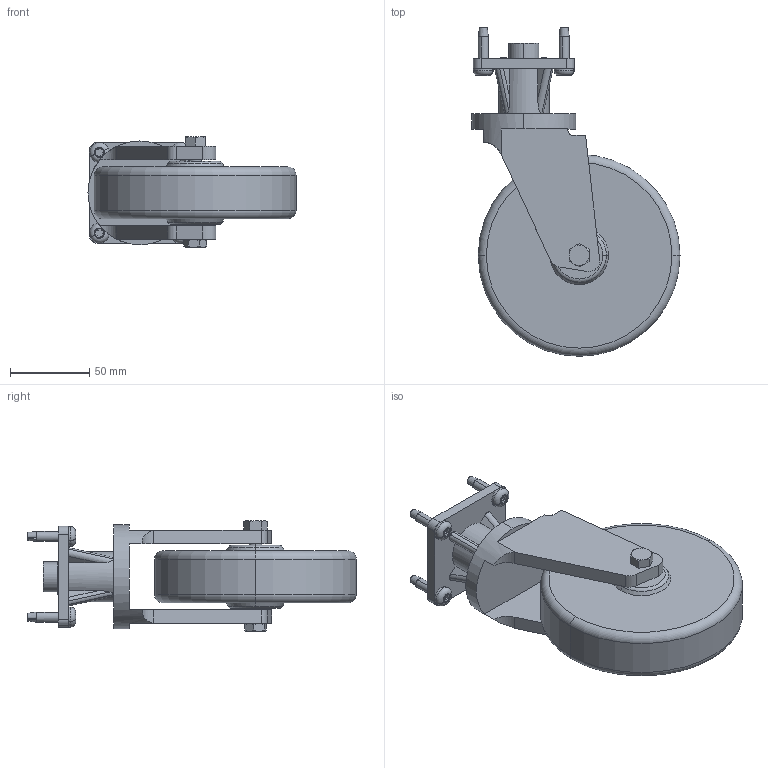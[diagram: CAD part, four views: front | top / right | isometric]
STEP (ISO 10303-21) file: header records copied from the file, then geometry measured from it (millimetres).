
FILE_DESCRIPTION (( 'STEP AP214' ), '1' );
FILE_NAME ('H030141100.STEP', '2020-06-02T12:08:10', ( '' ), ( '' ), 'SwSTEP 2.0', 'SolidWorks 2020', '' );
FILE_SCHEMA (( 'AUTOMOTIVE_DESIGN' ));
Length unit declared in the file: inch
Products named in the file (8): caster base1; Hex Bolt_Derived Ansi Inch Standard_HBOLT 0.3125-18x2.5x0.875-N; 25C100PTFZ; wheel5D; H030102100; H030141100; Hex Jam Nut_Derived Ansi Inch Standard_HJNUT 0.3125-18-D-N; H020052100
Assembly tree (10 placements, depth 3):
  H030141100
    H030102100
      caster base1
      wheel5D
      Hex Jam Nut_Derived Ansi Inch Standard_HJNUT 0.3125-18-D-N
      Hex Bolt_Derived Ansi Inch Standard_HBOLT 0.3125-18x2.5x0.875-N
    H020052100
    25C100PTFZ  x4
Bounding box: 130.94 x 206.76 x 69.6 mm (x, y, z)
Volume: 574867.3 mm3; surface area: 89379.4 mm2
Topology: 9 solids, 9 shells, 528 faces, 1350 edges, 875 vertices
Faces by surface type: plane 241, cylinder 131, bspline 82, cone 58, torus 16
Entity records: 17464 total; most frequent: CARTESIAN_POINT 8272, ORIENTED_EDGE 1968, DIRECTION 1544, EDGE_CURVE 984, VERTEX_POINT 638, VECTOR 544, LINE 544, AXIS2_PLACEMENT_3D 500
